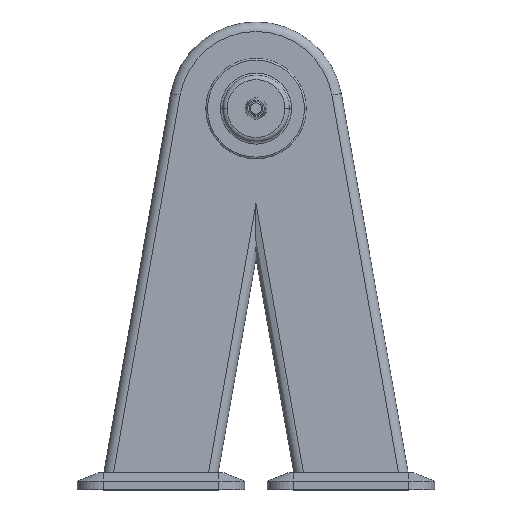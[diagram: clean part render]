
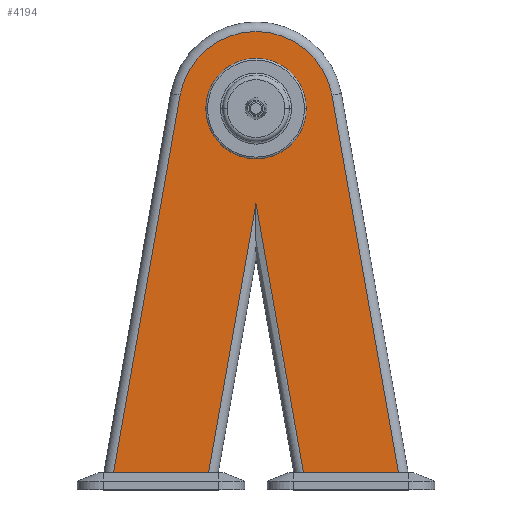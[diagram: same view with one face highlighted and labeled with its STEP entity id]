
A CAD part, top view. The second image highlights one B-rep face of the part: STEP entity #4194.
In plain terms, the highlighted planar face has unit normal (0, 0, 1).
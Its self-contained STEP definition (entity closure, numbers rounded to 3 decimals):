
#34 = CARTESIAN_POINT ( 'NONE',  ( 0., 330.583, 63. ) ) ;
#78 = VECTOR ( 'NONE', #1150, 1000. ) ;
#140 = FACE_BOUND ( 'NONE', #3591, .T. ) ;
#188 = LINE ( 'NONE', #1202, #78 ) ;
#269 = ORIENTED_EDGE ( 'NONE', *, *, #668, .T. ) ;
#383 = VECTOR ( 'NONE', #3065, 1000. ) ;
#405 = ORIENTED_EDGE ( 'NONE', *, *, #1807, .T. ) ;
#600 = VERTEX_POINT ( 'NONE', #34 ) ;
#611 = VECTOR ( 'NONE', #2965, 1000. ) ;
#615 = CARTESIAN_POINT ( 'NONE',  ( 87.648, 455.455, 63. ) ) ;
#638 = ORIENTED_EDGE ( 'NONE', *, *, #2869, .T. ) ;
#648 = CARTESIAN_POINT ( 'NONE',  ( -87.648, 455.455, 63. ) ) ;
#668 = EDGE_CURVE ( 'NONE', #3647, #2529, #188, .T. ) ;
#672 = CARTESIAN_POINT ( 'NONE',  ( 0., 20., 63. ) ) ;
#680 = CIRCLE ( 'NONE', #2898, 89. ) ;
#682 = DIRECTION ( 'NONE',  ( 1., 0., 0. ) ) ;
#734 = CARTESIAN_POINT ( 'NONE',  ( 0., 440., 63. ) ) ;
#950 = CARTESIAN_POINT ( 'NONE',  ( 60.876, -14.664, 63. ) ) ;
#1056 = VECTOR ( 'NONE', #2998, 1000. ) ;
#1085 = DIRECTION ( 'NONE',  ( 1., 0., 0. ) ) ;
#1139 = CARTESIAN_POINT ( 'NONE',  ( 58., 440., 63. ) ) ;
#1150 = DIRECTION ( 'NONE',  ( -0.174, -0.985, 0. ) ) ;
#1202 = CARTESIAN_POINT ( 'NONE',  ( -169.352, -7.91, 63. ) ) ;
#1239 = ORIENTED_EDGE ( 'NONE', *, *, #1490, .T. ) ;
#1264 = CARTESIAN_POINT ( 'NONE',  ( -10.833, 269.147, 63. ) ) ;
#1324 = LINE ( 'NONE', #672, #383 ) ;
#1456 = CARTESIAN_POINT ( 'NONE',  ( 0., 440., 63. ) ) ;
#1462 = DIRECTION ( 'NONE',  ( 0., 0., 1. ) ) ;
#1490 = EDGE_CURVE ( 'NONE', #3564, #3647, #680, .T. ) ;
#1537 = VERTEX_POINT ( 'NONE', #1139 ) ;
#1544 = LINE ( 'NONE', #1264, #611 ) ;
#1779 = ORIENTED_EDGE ( 'NONE', *, *, #1966, .F. ) ;
#1806 = DIRECTION ( 'NONE',  ( 1., 0., 0. ) ) ;
#1807 = EDGE_CURVE ( 'NONE', #4104, #3564, #2613, .T. ) ;
#1815 = CIRCLE ( 'NONE', #4039, 58. ) ;
#1950 = VERTEX_POINT ( 'NONE', #2142 ) ;
#1966 = EDGE_CURVE ( 'NONE', #1537, #3540, #3834, .T. ) ;
#2078 = CARTESIAN_POINT ( 'NONE',  ( 0., 440., 63. ) ) ;
#2129 = EDGE_CURVE ( 'NONE', #4104, #2725, #2360, .T. ) ;
#2142 = CARTESIAN_POINT ( 'NONE',  ( -54.764, 20., 63. ) ) ;
#2282 = AXIS2_PLACEMENT_3D ( 'NONE', #2078, #2740, #682 ) ;
#2336 = CARTESIAN_POINT ( 'NONE',  ( 87.648, 455.455, 63. ) ) ;
#2335 = CARTESIAN_POINT ( 'NONE',  ( -58., 440., 63. ) ) ;
#2340 = ORIENTED_EDGE ( 'NONE', *, *, #3680, .F. ) ;
#2360 = LINE ( 'NONE', #3216, #4085 ) ;
#2487 = CARTESIAN_POINT ( 'NONE',  ( -164.43, 20., 63. ) ) ;
#2529 = VERTEX_POINT ( 'NONE', #2487 ) ;
#2613 = LINE ( 'NONE', #2336, #3474 ) ;
#2725 = VERTEX_POINT ( 'NONE', #3240 ) ;
#2740 = DIRECTION ( 'NONE',  ( 0., 0., 1. ) ) ;
#2786 = FACE_OUTER_BOUND ( 'NONE', #3261, .T. ) ;
#2789 = ORIENTED_EDGE ( 'NONE', *, *, #3383, .T. ) ;
#2796 = ORIENTED_EDGE ( 'NONE', *, *, #2129, .F. ) ;
#2869 = EDGE_CURVE ( 'NONE', #600, #2725, #4370, .T. ) ;
#2891 = DIRECTION ( 'NONE',  ( -1., 0., 0. ) ) ;
#2898 = AXIS2_PLACEMENT_3D ( 'NONE', #3454, #1462, #3783 ) ;
#2965 = DIRECTION ( 'NONE',  ( 0.174, 0.985, 0. ) ) ;
#2998 = DIRECTION ( 'NONE',  ( 0.174, -0.985, 0. ) ) ;
#3001 = CARTESIAN_POINT ( 'NONE',  ( 164.43, 20., 63. ) ) ;
#3060 = PLANE ( 'NONE',  #2282 ) ;
#3065 = DIRECTION ( 'NONE',  ( -1., 0., 0. ) ) ;
#3101 = ORIENTED_EDGE ( 'NONE', *, *, #3766, .F. ) ;
#3117 = DIRECTION ( 'NONE',  ( 0., 0., 1. ) ) ;
#3169 = AXIS2_PLACEMENT_3D ( 'NONE', #1456, #3781, #1806 ) ;
#3216 = CARTESIAN_POINT ( 'NONE',  ( 0., 20., 63. ) ) ;
#3240 = CARTESIAN_POINT ( 'NONE',  ( 54.764, 20., 63. ) ) ;
#3261 = EDGE_LOOP ( 'NONE', ( #2340, #2789, #638, #2796, #405, #1239, #269 ) ) ;
#3383 = EDGE_CURVE ( 'NONE', #1950, #600, #1544, .T. ) ;
#3454 = CARTESIAN_POINT ( 'NONE',  ( 0., 440., 63. ) ) ;
#3474 = VECTOR ( 'NONE', #3957, 1000. ) ;
#3540 = VERTEX_POINT ( 'NONE', #2335 ) ;
#3564 = VERTEX_POINT ( 'NONE', #615 ) ;
#3591 = EDGE_LOOP ( 'NONE', ( #3101, #1779 ) ) ;
#3647 = VERTEX_POINT ( 'NONE', #648 ) ;
#3680 = EDGE_CURVE ( 'NONE', #1950, #2529, #1324, .T. ) ;
#3766 = EDGE_CURVE ( 'NONE', #3540, #1537, #1815, .T. ) ;
#3781 = DIRECTION ( 'NONE',  ( 0., 0., 1. ) ) ;
#3783 = DIRECTION ( 'NONE',  ( 1., 0., 0. ) ) ;
#3834 = CIRCLE ( 'NONE', #3169, 58. ) ;
#3957 = DIRECTION ( 'NONE',  ( -0.174, 0.985, 0. ) ) ;
#4039 = AXIS2_PLACEMENT_3D ( 'NONE', #734, #3117, #1085 ) ;
#4085 = VECTOR ( 'NONE', #2891, 1000. ) ;
#4104 = VERTEX_POINT ( 'NONE', #3001 ) ;
#4194 = ADVANCED_FACE ( 'NONE', ( #140, #2786 ), #3060, .T. ) ;
#4370 = LINE ( 'NONE', #950, #1056 ) ;
